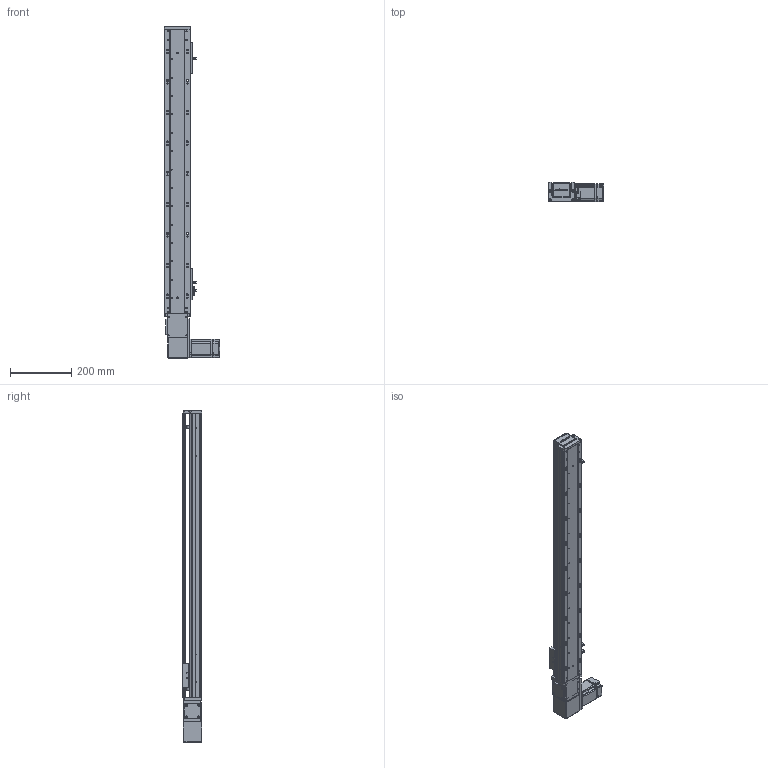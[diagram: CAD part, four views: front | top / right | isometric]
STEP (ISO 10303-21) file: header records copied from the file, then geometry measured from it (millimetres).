
FILE_DESCRIPTION (( 'STEP AP203' ), '1' );
FILE_NAME ('RY80-T-300-RK.SLDASM_750.step', '2021-03-01T02:06:57', ( '盈信电脑' ), ( '东莞市道滘镇水果街19号' ), 'SwSTEP 2.0', 'SolidWorks 2012', '' );
FILE_SCHEMA (( 'CONFIG_CONTROL_DESIGN' ));
Length unit declared in the file: millimetre
Products named in the file (20): RY80-T-300-RK.SLDASM_750; 滅袉蝶18-10; RY100-T粣創揤踡裔; RY80-T粣創揤踡輸; RY80-T翋肮祭謫裔啣; RY80-T-M4蹟翐; RY80-T肮祭謫俋欶; RY80-T肮祭湍揤輸2; RY80-T肮祭湍揤輸1; RY80-T萇儂假蚾啣; RY80-T-翋肮祭謫釱; 侂狟200W萇儂; RY80俋离覜茼え; 1; RY80-T綴裔啣; 覜茼ん672; RY80-T-300-RK倰第奻裔啣_750; 672嫖萇羲壽假蚾釱; RY80-T-300-RK倰第菁釱_750; RY80-T肮祭謫臏賑輸
Assembly tree (25 placements, depth 3):
  RY80-T-300-RK.SLDASM_750
    RY80-T-300-RK倰第菁釱_750
    RY80-T肮祭謫臏賑輸
    RY80-T-300-RK倰第奻裔啣_750
    RY80-T綴裔啣
    672嫖萇羲壽假蚾釱  x2
    覜茼ん672  x3
    RY80俋离覜茼え
    侂狟200W萇儂
      1
    RY80-T-翋肮祭謫釱
    RY80-T萇儂假蚾啣
    RY80-T肮祭湍揤輸1
    RY80-T肮祭湍揤輸2
    RY80-T粣創揤踡輸
    RY80-T-M4蹟翐  x2
    RY80-T翋肮祭謫裔啣  x2
    RY80-T肮祭謫俋欶
    滅袉蝶18-10  x2
    RY100-T粣創揤踡裔
Bounding box: 180 x 65 x 1085 mm (x, y, z)
Volume: 1864970.6 mm3; surface area: 771110.6 mm2
Topology: 24 solids, 24 shells, 2555 faces, 7058 edges, 4587 vertices
Faces by surface type: plane 1348, cylinder 1000, cone 151, bspline 56
Entity records: 81210 total; most frequent: CARTESIAN_POINT 20197, ORIENTED_EDGE 12560, DIRECTION 11726, EDGE_CURVE 6280, VERTEX_POINT 4128, AXIS2_PLACEMENT_3D 3965, LINE 3796, VECTOR 3796
